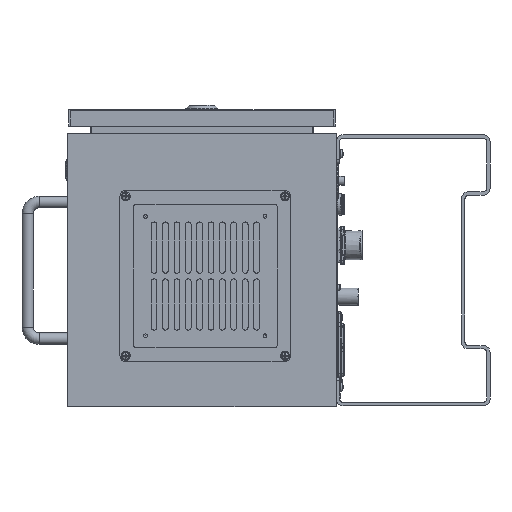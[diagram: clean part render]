
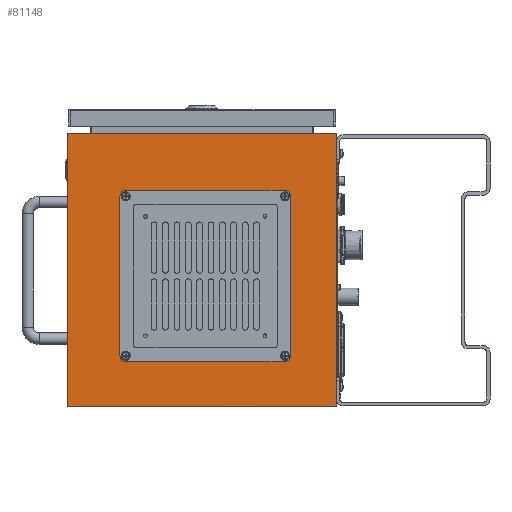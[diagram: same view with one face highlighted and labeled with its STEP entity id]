
A CAD part, left-side view. The second image highlights one B-rep face of the part: STEP entity #81148.
In plain terms, the highlighted planar face has unit normal (-1, 0, 0).
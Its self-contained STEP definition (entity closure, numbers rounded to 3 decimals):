
#3561=FACE_BOUND('',#9791,.T.);
#3562=FACE_BOUND('',#9792,.T.);
#3563=FACE_BOUND('',#9793,.T.);
#3564=FACE_BOUND('',#9794,.T.);
#3565=FACE_BOUND('',#9795,.T.);
#5474=FACE_OUTER_BOUND('',#9790,.T.);
#9790=EDGE_LOOP('',(#51031,#51032,#51033,#51034));
#9791=EDGE_LOOP('',(#51035));
#9792=EDGE_LOOP('',(#51036));
#9793=EDGE_LOOP('',(#51037));
#9794=EDGE_LOOP('',(#51038));
#9795=EDGE_LOOP('',(#51039,#51040,#51041,#51042,#51043,#51044,#51045,#51046));
#14579=CIRCLE('',#85487,1.621);
#14580=CIRCLE('',#85489,1.621);
#14581=CIRCLE('',#85491,1.621);
#14582=CIRCLE('',#85493,1.621);
#14630=CIRCLE('',#85605,2.);
#14631=CIRCLE('',#85608,2.);
#14632=CIRCLE('',#85611,2.);
#14633=CIRCLE('',#85614,2.);
#17979=LINE('',#114528,#24244);
#17982=LINE('',#114536,#24247);
#17985=LINE('',#114544,#24250);
#17988=LINE('',#114551,#24253);
#18041=LINE('',#114685,#24306);
#18042=LINE('',#114687,#24307);
#18043=LINE('',#114689,#24308);
#18044=LINE('',#114690,#24309);
#24244=VECTOR('',#93407,10.);
#24247=VECTOR('',#93416,10.);
#24250=VECTOR('',#93425,10.);
#24253=VECTOR('',#93434,10.);
#24306=VECTOR('',#93573,10.);
#24307=VECTOR('',#93574,10.);
#24308=VECTOR('',#93575,10.);
#24309=VECTOR('',#93576,10.);
#30483=VERTEX_POINT('',#114253);
#30484=VERTEX_POINT('',#114257);
#30485=VERTEX_POINT('',#114261);
#30486=VERTEX_POINT('',#114265);
#30550=VERTEX_POINT('',#114521);
#30551=VERTEX_POINT('',#114523);
#30552=VERTEX_POINT('',#114527);
#30553=VERTEX_POINT('',#114531);
#30554=VERTEX_POINT('',#114535);
#30555=VERTEX_POINT('',#114539);
#30556=VERTEX_POINT('',#114543);
#30557=VERTEX_POINT('',#114547);
#30594=VERTEX_POINT('',#114683);
#30595=VERTEX_POINT('',#114684);
#30596=VERTEX_POINT('',#114686);
#30597=VERTEX_POINT('',#114688);
#38547=EDGE_CURVE('',#30483,#30483,#14579,.T.);
#38549=EDGE_CURVE('',#30484,#30484,#14580,.T.);
#38551=EDGE_CURVE('',#30485,#30485,#14581,.T.);
#38553=EDGE_CURVE('',#30486,#30486,#14582,.T.);
#38682=EDGE_CURVE('',#30551,#30550,#14630,.T.);
#38684=EDGE_CURVE('',#30552,#30551,#17979,.T.);
#38686=EDGE_CURVE('',#30553,#30552,#14631,.T.);
#38688=EDGE_CURVE('',#30554,#30553,#17982,.T.);
#38690=EDGE_CURVE('',#30555,#30554,#14632,.T.);
#38692=EDGE_CURVE('',#30556,#30555,#17985,.T.);
#38694=EDGE_CURVE('',#30557,#30556,#14633,.T.);
#38696=EDGE_CURVE('',#30550,#30557,#17988,.T.);
#38761=EDGE_CURVE('',#30594,#30595,#18041,.T.);
#38762=EDGE_CURVE('',#30596,#30594,#18042,.T.);
#38763=EDGE_CURVE('',#30596,#30597,#18043,.T.);
#38764=EDGE_CURVE('',#30595,#30597,#18044,.T.);
#51031=ORIENTED_EDGE('',*,*,#38761,.F.);
#51032=ORIENTED_EDGE('',*,*,#38762,.F.);
#51033=ORIENTED_EDGE('',*,*,#38763,.T.);
#51034=ORIENTED_EDGE('',*,*,#38764,.F.);
#51035=ORIENTED_EDGE('',*,*,#38549,.T.);
#51036=ORIENTED_EDGE('',*,*,#38547,.T.);
#51037=ORIENTED_EDGE('',*,*,#38553,.T.);
#51038=ORIENTED_EDGE('',*,*,#38551,.T.);
#51039=ORIENTED_EDGE('',*,*,#38682,.T.);
#51040=ORIENTED_EDGE('',*,*,#38696,.T.);
#51041=ORIENTED_EDGE('',*,*,#38694,.T.);
#51042=ORIENTED_EDGE('',*,*,#38692,.T.);
#51043=ORIENTED_EDGE('',*,*,#38690,.T.);
#51044=ORIENTED_EDGE('',*,*,#38688,.T.);
#51045=ORIENTED_EDGE('',*,*,#38686,.T.);
#51046=ORIENTED_EDGE('',*,*,#38684,.T.);
#74701=PLANE('',#85658);
#81148=ADVANCED_FACE('',(#5474,#3561,#3562,#3563,#3564,#3565),#74701,.T.);
#85487=AXIS2_PLACEMENT_3D('',#114254,#93082,#93083);
#85489=AXIS2_PLACEMENT_3D('',#114258,#93087,#93088);
#85491=AXIS2_PLACEMENT_3D('',#114262,#93092,#93093);
#85493=AXIS2_PLACEMENT_3D('',#114266,#93097,#93098);
#85605=AXIS2_PLACEMENT_3D('',#114524,#93402,#93403);
#85608=AXIS2_PLACEMENT_3D('',#114532,#93411,#93412);
#85611=AXIS2_PLACEMENT_3D('',#114540,#93420,#93421);
#85614=AXIS2_PLACEMENT_3D('',#114548,#93429,#93430);
#85658=AXIS2_PLACEMENT_3D('',#114682,#93571,#93572);
#93082=DIRECTION('center_axis',(1.,0.,0.));
#93083=DIRECTION('ref_axis',(0.,0.,-1.));
#93087=DIRECTION('center_axis',(1.,0.,0.));
#93088=DIRECTION('ref_axis',(0.,0.,-1.));
#93092=DIRECTION('center_axis',(1.,0.,0.));
#93093=DIRECTION('ref_axis',(0.,0.,-1.));
#93097=DIRECTION('center_axis',(1.,0.,0.));
#93098=DIRECTION('ref_axis',(0.,0.,-1.));
#93402=DIRECTION('center_axis',(1.,0.,0.));
#93403=DIRECTION('ref_axis',(0.,1.,0.));
#93407=DIRECTION('',(0.,1.,0.));
#93411=DIRECTION('center_axis',(1.,0.,0.));
#93412=DIRECTION('ref_axis',(0.,0.,-1.));
#93416=DIRECTION('',(0.,0.,-1.));
#93420=DIRECTION('center_axis',(1.,0.,0.));
#93421=DIRECTION('ref_axis',(0.,-1.,0.));
#93425=DIRECTION('',(0.,-1.,0.));
#93429=DIRECTION('center_axis',(1.,0.,0.));
#93430=DIRECTION('ref_axis',(0.,0.,1.));
#93434=DIRECTION('',(0.,0.,1.));
#93571=DIRECTION('center_axis',(-1.,0.,0.));
#93572=DIRECTION('ref_axis',(0.,-1.,0.));
#93573=DIRECTION('',(0.,0.,1.));
#93574=DIRECTION('',(0.,1.,0.));
#93575=DIRECTION('',(0.,0.,1.));
#93576=DIRECTION('',(0.,-1.,0.));
#114253=CARTESIAN_POINT('',(-220.,67.,-73.379));
#114254=CARTESIAN_POINT('Origin',(-220.,67.,-75.));
#114257=CARTESIAN_POINT('',(-220.,67.,66.621));
#114258=CARTESIAN_POINT('Origin',(-220.,67.,65.));
#114261=CARTESIAN_POINT('',(-220.,-73.,-73.379));
#114262=CARTESIAN_POINT('Origin',(-220.,-73.,-75.));
#114265=CARTESIAN_POINT('',(-220.,-73.,66.621));
#114266=CARTESIAN_POINT('Origin',(-220.,-73.,65.));
#114521=CARTESIAN_POINT('',(-220.,60.,-66.));
#114523=CARTESIAN_POINT('',(-220.,58.,-68.));
#114524=CARTESIAN_POINT('Origin',(-220.,58.,-66.));
#114527=CARTESIAN_POINT('',(-220.,-64.,-68.));
#114528=CARTESIAN_POINT('',(-220.,27.,-68.));
#114531=CARTESIAN_POINT('',(-220.,-66.,-66.));
#114532=CARTESIAN_POINT('Origin',(-220.,-64.,-66.));
#114535=CARTESIAN_POINT('',(-220.,-66.,56.));
#114536=CARTESIAN_POINT('',(-220.,-66.,28.));
#114539=CARTESIAN_POINT('',(-220.,-64.,58.));
#114540=CARTESIAN_POINT('Origin',(-220.,-64.,56.));
#114543=CARTESIAN_POINT('',(-220.,58.,58.));
#114544=CARTESIAN_POINT('',(-220.,88.,58.));
#114547=CARTESIAN_POINT('',(-220.,60.,56.));
#114548=CARTESIAN_POINT('Origin',(-220.,58.,56.));
#114551=CARTESIAN_POINT('',(-220.,60.,-33.));
#114682=CARTESIAN_POINT('Origin',(-220.,118.,0.));
#114683=CARTESIAN_POINT('',(-220.,118.,-120.));
#114684=CARTESIAN_POINT('',(-220.,118.,120.));
#114685=CARTESIAN_POINT('',(-220.,118.,0.));
#114686=CARTESIAN_POINT('',(-220.,-118.,-120.));
#114687=CARTESIAN_POINT('',(-220.,118.,-120.));
#114688=CARTESIAN_POINT('',(-220.,-118.,120.));
#114689=CARTESIAN_POINT('',(-220.,-118.,0.));
#114690=CARTESIAN_POINT('',(-220.,118.,120.));
